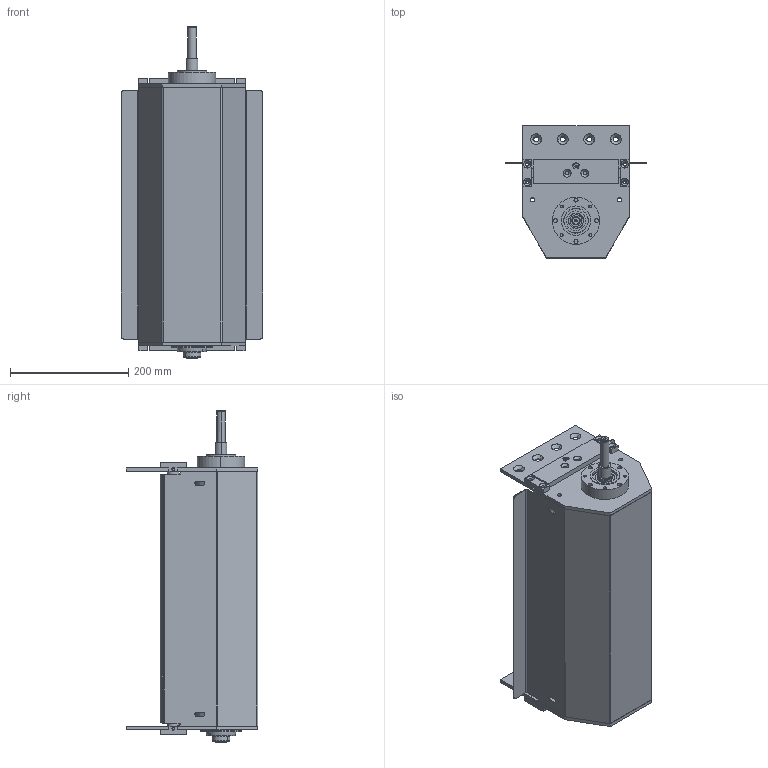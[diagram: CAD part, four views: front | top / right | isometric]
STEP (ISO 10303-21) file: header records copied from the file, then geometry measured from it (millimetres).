
FILE_DESCRIPTION (( 'STEP AP203' ), '1' );
FILE_NAME ('084.050.KCS.30.400.STEP', '2019-07-29T13:47:28', ( '' ), ( '' ), 'SwSTEP 2.0', 'SolidWorks 2018', '' );
FILE_SCHEMA (( 'CONFIG_CONTROL_DESIGN' ));
Length unit declared in the file: millimetre
Products named in the file (15): 084.817.064; 084.814.001-1; 084.802.003; 084.802.004-1; 084.812.003; 084.817.065_Default<A macchina>; 084.817.063; 084.802.009; 084.802.020; 084.050.KCS.30.400; 084.802.021; CUSCINETTI A SFERE_6004-2RS; 084.802.012_Solo centrale; 084.810.003; 084.817.066
Assembly tree (25 placements, depth 2):
  084.050.KCS.30.400
    084.817.063  x2
    084.817.065_Default<A macchina>
    084.817.066
    084.817.064  x2
    084.802.009
    084.802.021
    084.814.001-1
    084.810.003  x2
    084.802.004-1  x4
    084.802.020
    084.812.003
    084.802.003  x2
    CUSCINETTI A SFERE_6004-2RS  x4
    084.802.012_Solo centrale  x2
Bounding box: 240 x 223 x 562 mm (x, y, z)
Volume: 2834096.9 mm3; surface area: 1430720.5 mm2
Topology: 27 solids, 27 shells, 979 faces, 2433 edges, 1565 vertices
Faces by surface type: plane 418, cylinder 345, cone 138, torus 68, sphere 10
Entity records: 20610 total; most frequent: DIRECTION 3465, CARTESIAN_POINT 3268, ORIENTED_EDGE 3042, EDGE_CURVE 1521, AXIS2_PLACEMENT_3D 1319, VERTEX_POINT 980, VECTOR 827, LINE 827
